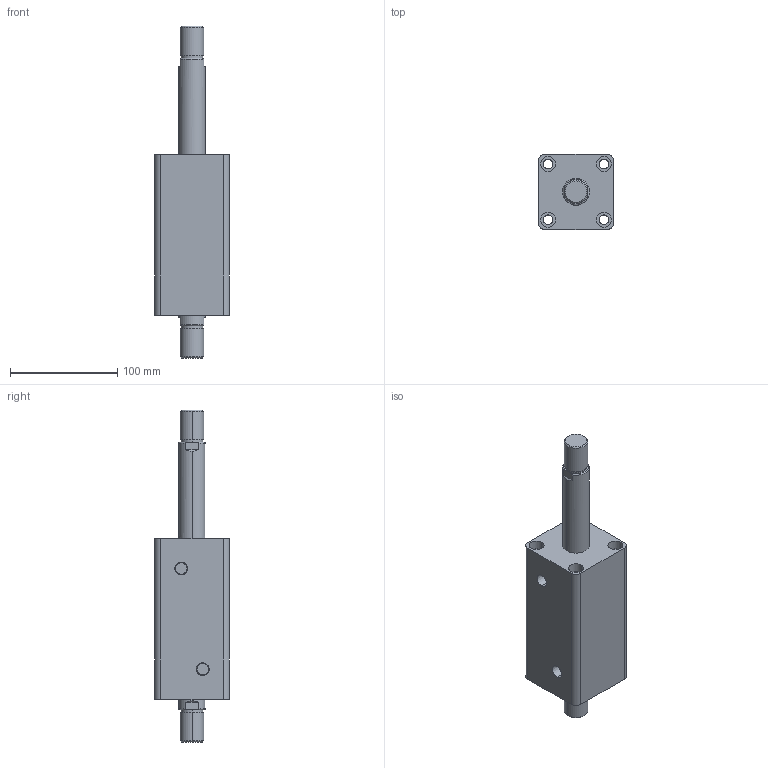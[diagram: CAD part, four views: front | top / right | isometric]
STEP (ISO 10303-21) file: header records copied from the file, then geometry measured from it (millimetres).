
FILE_DESCRIPTION (( 'STEP AP203' ), '1' );
FILE_NAME ('HTB-SW40-80W.STEP', '2019-10-07T09:12:16', ( '微软用户' ), ( '微软中国' ), 'SwSTEP 2.0', 'SolidWorks 2012', '' );
FILE_SCHEMA (( 'CONFIG_CONTROL_DESIGN' ));
Length unit declared in the file: millimetre
Products named in the file (3): HTB-SW40-80W; HTB-SW40-80W活塞杆; HTB-SW40-80掛极
Assembly tree (2 placements, depth 2):
  HTB-SW40-80W
    HTB-SW40-80掛极
    HTB-SW40-80W活塞杆
Bounding box: 70 x 70 x 310 mm (x, y, z)
Volume: 693566.8 mm3; surface area: 112404.5 mm2
Topology: 2 solids, 2 shells, 108 faces, 240 edges, 156 vertices
Faces by surface type: cylinder 52, plane 36, torus 12, cone 8
Entity records: 3449 total; most frequent: CARTESIAN_POINT 629, DIRECTION 586, ORIENTED_EDGE 480, AXIS2_PLACEMENT_3D 249, EDGE_CURVE 240, VERTEX_POINT 156, EDGE_LOOP 138, CIRCLE 136
